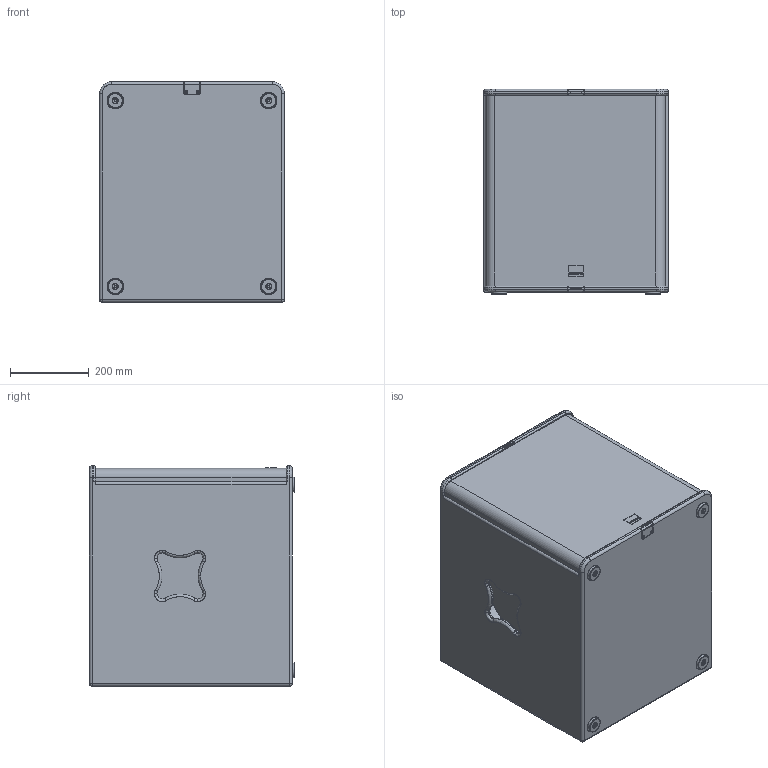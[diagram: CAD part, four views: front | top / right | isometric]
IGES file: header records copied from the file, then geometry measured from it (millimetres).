
Start section: SolidWorks IGES file using analytic representation for surfaces
Global section: file name: C:\Dokumente und Einstellungen\PC_Fabian\Desktop\TS-Serie\Seeburg_TSM-Sub.IGS; native system: SolidWorks 2009; preprocessor: SolidWorks 2009; author: PC_Fabian; date: 121017.135804; units: millimetre
Bounding box: 470 x 521 x 560 mm (x, y, z)
Surface area: 3270633.8 mm2 (no closed solid volume)
Topology: 0 solids, 0 shells, 612 faces, 8290 edges, 8288 vertices
Faces by surface type: bspline 318, revolution 294
